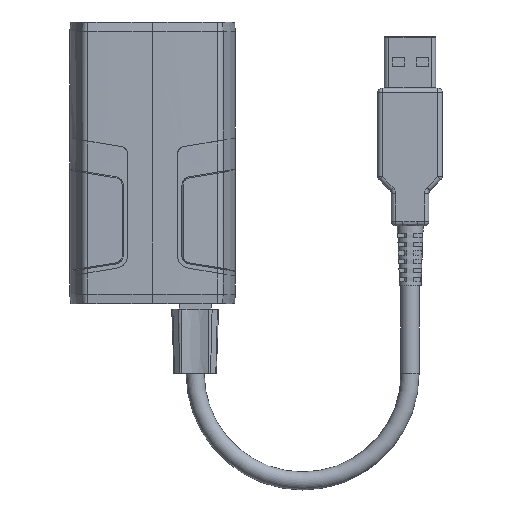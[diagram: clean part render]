
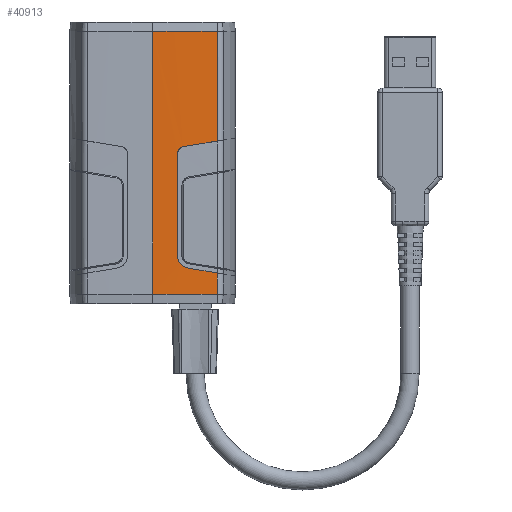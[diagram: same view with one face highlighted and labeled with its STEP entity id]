
A CAD part, front view. The second image highlights one B-rep face of the part: STEP entity #40913.
In plain terms, the highlighted cylindrical face has radius 711 mm (diameter 1422 mm), a partial arc.
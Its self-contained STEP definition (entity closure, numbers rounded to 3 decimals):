
#631=ELLIPSE('',#44162,720.307,711.);
#632=ELLIPSE('',#44163,720.307,711.);
#891=B_SPLINE_CURVE_WITH_KNOTS('',3,(#68294,#68295,#68296,#68297,#68298,
#68299,#68300,#68301,#68302,#68303),.UNSPECIFIED.,.F.,.F.,(4,2,2,2,4),(0.,
0.131,0.282,0.456,0.693),
 .UNSPECIFIED.);
#892=B_SPLINE_CURVE_WITH_KNOTS('',3,(#68306,#68307,#68308,#68309,#68310,
#68311,#68312,#68313,#68314,#68315),.UNSPECIFIED.,.F.,.F.,(4,2,2,2,4),(0.,
0.069,0.138,0.206,0.247),
 .UNSPECIFIED.);
#1474=CYLINDRICAL_SURFACE('',#44161,711.);
#3438=FACE_OUTER_BOUND('',#5716,.T.);
#5716=EDGE_LOOP('',(#36019,#36020,#36021,#36022,#36023,#36024,#36025,#36026,
#36027,#36028));
#10012=LINE('',#68198,#14408);
#10026=LINE('',#68289,#14422);
#10027=LINE('',#68290,#14423);
#10028=LINE('',#68305,#14424);
#14408=VECTOR('',#54357,10.);
#14422=VECTOR('',#54387,10.);
#14423=VECTOR('',#54388,10.);
#14424=VECTOR('',#54391,10.);
#15713=CIRCLE('',#44094,711.);
#15726=CIRCLE('',#44115,711.);
#19174=VERTEX_POINT('',#68046);
#19176=VERTEX_POINT('',#68050);
#19187=VERTEX_POINT('',#68084);
#19189=VERTEX_POINT('',#68093);
#19215=VERTEX_POINT('',#68196);
#19231=VERTEX_POINT('',#68286);
#19232=VERTEX_POINT('',#68287);
#19233=VERTEX_POINT('',#68291);
#19234=VERTEX_POINT('',#68293);
#19235=VERTEX_POINT('',#68304);
#24868=EDGE_CURVE('',#19176,#19174,#15713,.T.);
#24890=EDGE_CURVE('',#19187,#19189,#15726,.T.);
#24935=EDGE_CURVE('',#19176,#19215,#10012,.T.);
#24957=EDGE_CURVE('',#19231,#19232,#631,.T.);
#24958=EDGE_CURVE('',#19232,#19189,#10026,.T.);
#24959=EDGE_CURVE('',#19174,#19187,#10027,.T.);
#24960=EDGE_CURVE('',#19215,#19233,#632,.T.);
#24961=EDGE_CURVE('',#19233,#19234,#891,.T.);
#24962=EDGE_CURVE('',#19234,#19235,#10028,.T.);
#24963=EDGE_CURVE('',#19235,#19231,#892,.T.);
#36019=ORIENTED_EDGE('',*,*,#24957,.T.);
#36020=ORIENTED_EDGE('',*,*,#24958,.T.);
#36021=ORIENTED_EDGE('',*,*,#24890,.F.);
#36022=ORIENTED_EDGE('',*,*,#24959,.F.);
#36023=ORIENTED_EDGE('',*,*,#24868,.F.);
#36024=ORIENTED_EDGE('',*,*,#24935,.T.);
#36025=ORIENTED_EDGE('',*,*,#24960,.T.);
#36026=ORIENTED_EDGE('',*,*,#24961,.T.);
#36027=ORIENTED_EDGE('',*,*,#24962,.T.);
#36028=ORIENTED_EDGE('',*,*,#24963,.T.);
#40913=ADVANCED_FACE('',(#3438),#1474,.T.);
#44094=AXIS2_PLACEMENT_3D('',#68052,#54205,#54206);
#44115=AXIS2_PLACEMENT_3D('',#68095,#54256,#54257);
#44161=AXIS2_PLACEMENT_3D('',#68285,#54383,#54384);
#44162=AXIS2_PLACEMENT_3D('',#68288,#54385,#54386);
#44163=AXIS2_PLACEMENT_3D('',#68292,#54389,#54390);
#54205=DIRECTION('center_axis',(0.,0.,-1.));
#54206=DIRECTION('ref_axis',(0.021,-1.,0.));
#54256=DIRECTION('center_axis',(0.,0.,1.));
#54257=DIRECTION('ref_axis',(0.021,-1.,0.));
#54357=DIRECTION('',(0.,0.,1.));
#54383=DIRECTION('center_axis',(0.,0.,1.));
#54384=DIRECTION('ref_axis',(0.021,-1.,0.));
#54385=DIRECTION('center_axis',(-0.16,0.,0.987));
#54386=DIRECTION('ref_axis',(0.987,0.,0.16));
#54387=DIRECTION('',(0.,0.,1.));
#54388=DIRECTION('',(0.,0.,1.));
#54389=DIRECTION('center_axis',(-0.16,0.,-0.987));
#54390=DIRECTION('ref_axis',(0.987,0.,-0.16));
#54391=DIRECTION('',(0.,0.,1.));
#68046=CARTESIAN_POINT('',(29.562,-9.58,-36.52));
#68050=CARTESIAN_POINT('',(44.651,-9.42,-36.52));
#68052=CARTESIAN_POINT('Origin',(29.568,701.42,-36.52));
#68084=CARTESIAN_POINT('',(29.562,-9.58,24.58));
#68093=CARTESIAN_POINT('',(44.651,-9.42,24.58));
#68095=CARTESIAN_POINT('Origin',(29.568,701.42,24.58));
#68196=CARTESIAN_POINT('',(44.651,-9.42,-31.593));
#68198=CARTESIAN_POINT('',(44.651,-9.42,-38.72));
#68285=CARTESIAN_POINT('Origin',(29.568,701.42,-38.72));
#68286=CARTESIAN_POINT('',(36.916,-9.542,-2.152));
#68287=CARTESIAN_POINT('',(44.651,-9.42,-0.897));
#68288=CARTESIAN_POINT('Origin',(29.568,701.42,-3.345));
#68289=CARTESIAN_POINT('',(44.651,-9.42,-38.72));
#68290=CARTESIAN_POINT('',(29.562,-9.58,-38.72));
#68291=CARTESIAN_POINT('',(37.901,-9.531,-30.497));
#68292=CARTESIAN_POINT('Origin',(29.568,701.42,-29.144));
#68293=CARTESIAN_POINT('',(35.382,-9.556,-27.536));
#68294=CARTESIAN_POINT('Ctrl Pts',(37.901,-9.531,-30.497));
#68295=CARTESIAN_POINT('Ctrl Pts',(37.471,-9.536,-30.427));
#68296=CARTESIAN_POINT('Ctrl Pts',(37.1,-9.54,-30.271));
#68297=CARTESIAN_POINT('Ctrl Pts',(36.45,-9.547,-29.868));
#68298=CARTESIAN_POINT('Ctrl Pts',(36.174,-9.549,-29.596));
#68299=CARTESIAN_POINT('Ctrl Pts',(35.728,-9.553,-28.991));
#68300=CARTESIAN_POINT('Ctrl Pts',(35.6,-9.554,-28.682));
#68301=CARTESIAN_POINT('Ctrl Pts',(35.431,-9.556,-28.162));
#68302=CARTESIAN_POINT('Ctrl Pts',(35.382,-9.556,-27.851));
#68303=CARTESIAN_POINT('Ctrl Pts',(35.382,-9.556,-27.536));
#68304=CARTESIAN_POINT('',(35.382,-9.556,-3.955));
#68305=CARTESIAN_POINT('',(35.382,-9.556,-38.72));
#68306=CARTESIAN_POINT('Ctrl Pts',(35.382,-9.556,-3.955));
#68307=CARTESIAN_POINT('Ctrl Pts',(35.382,-9.556,-3.726));
#68308=CARTESIAN_POINT('Ctrl Pts',(35.428,-9.556,-3.481));
#68309=CARTESIAN_POINT('Ctrl Pts',(35.614,-9.554,-3.031));
#68310=CARTESIAN_POINT('Ctrl Pts',(35.755,-9.553,-2.826));
#68311=CARTESIAN_POINT('Ctrl Pts',(36.079,-9.55,-2.502));
#68312=CARTESIAN_POINT('Ctrl Pts',(36.285,-9.548,-2.361));
#68313=CARTESIAN_POINT('Ctrl Pts',(36.641,-9.545,-2.214));
#68314=CARTESIAN_POINT('Ctrl Pts',(36.778,-9.543,-2.175));
#68315=CARTESIAN_POINT('Ctrl Pts',(36.916,-9.542,-2.152));
